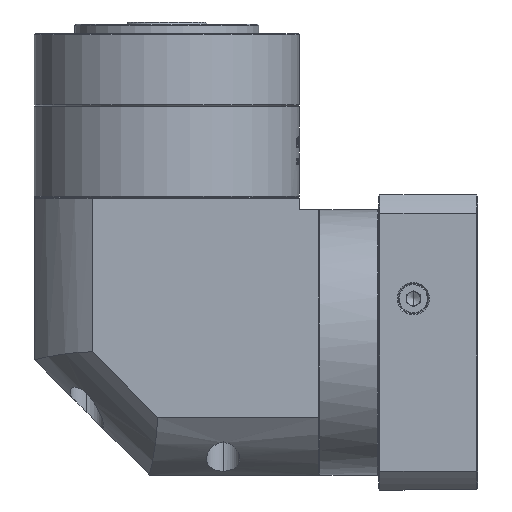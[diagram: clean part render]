
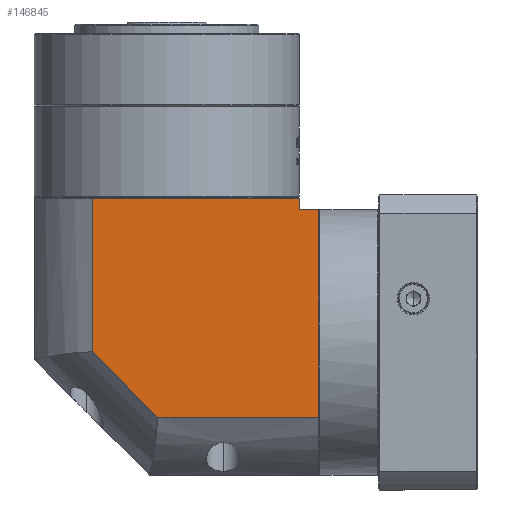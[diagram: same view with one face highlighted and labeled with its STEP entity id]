
A CAD part, left-side view. The second image highlights one B-rep face of the part: STEP entity #146845.
In plain terms, the highlighted planar face has unit normal (-1, 0, 0).
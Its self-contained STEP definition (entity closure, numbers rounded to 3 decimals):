
#3252 = DIRECTION ( 'NONE',  ( 0., -1., 0. ) ) ;
#4395 = VERTEX_POINT ( 'NONE', #9612 ) ;
#4476 = DIRECTION ( 'NONE',  ( 0., 1., 0. ) ) ;
#4751 = VERTEX_POINT ( 'NONE', #115779 ) ;
#9507 = VECTOR ( 'NONE', #124488, 1000. ) ;
#9612 = CARTESIAN_POINT ( 'NONE',  ( -292.94, -87.873, -29.011 ) ) ;
#12212 = ORIENTED_EDGE ( 'NONE', *, *, #113280, .F. ) ;
#12752 = VERTEX_POINT ( 'NONE', #29045 ) ;
#18236 = LINE ( 'NONE', #66241, #137091 ) ;
#19903 = CARTESIAN_POINT ( 'NONE',  ( -292.94, -87.873, 72.389 ) ) ;
#20639 = VECTOR ( 'NONE', #3252, 1000. ) ;
#25868 = LINE ( 'NONE', #19903, #166190 ) ;
#27801 = VERTEX_POINT ( 'NONE', #62877 ) ;
#29045 = CARTESIAN_POINT ( 'NONE',  ( -292.94, 10.427, 65.889 ) ) ;
#33429 = LINE ( 'NONE', #137398, #20639 ) ;
#33605 = DIRECTION ( 'NONE',  ( 0., 0., -1. ) ) ;
#41390 = VERTEX_POINT ( 'NONE', #41907 ) ;
#41907 = CARTESIAN_POINT ( 'NONE',  ( -292.94, -79.473, 65.889 ) ) ;
#52369 = CARTESIAN_POINT ( 'NONE',  ( -292.94, -17.911, -29.011 ) ) ;
#55957 = CARTESIAN_POINT ( 'NONE',  ( -292.94, -79.473, 60.889 ) ) ;
#60788 = ORIENTED_EDGE ( 'NONE', *, *, #130964, .F. ) ;
#60972 = CARTESIAN_POINT ( 'NONE',  ( -292.94, -79.473, 60.889 ) ) ;
#62694 = CARTESIAN_POINT ( 'NONE',  ( -292.94, -87.873, 60.889 ) ) ;
#62857 = ORIENTED_EDGE ( 'NONE', *, *, #64717, .T. ) ;
#62877 = CARTESIAN_POINT ( 'NONE',  ( -292.94, 10.427, -0.673 ) ) ;
#63772 = EDGE_LOOP ( 'NONE', ( #12212, #130496, #72927, #174046, #150519, #62857, #60788 ) ) ;
#64717 = EDGE_CURVE ( 'NONE', #98660, #41390, #175333, .T. ) ;
#65039 = LINE ( 'NONE', #52369, #162836 ) ;
#65671 = DIRECTION ( 'NONE',  ( 0., 0., 1. ) ) ;
#66241 = CARTESIAN_POINT ( 'NONE',  ( -292.94, 10.427, 72.389 ) ) ;
#72018 = EDGE_CURVE ( 'NONE', #150065, #98660, #125056, .T. ) ;
#72662 = EDGE_CURVE ( 'NONE', #4395, #4751, #148058, .T. ) ;
#72927 = ORIENTED_EDGE ( 'NONE', *, *, #72662, .F. ) ;
#80330 = VECTOR ( 'NONE', #4476, 1000. ) ;
#85803 = CARTESIAN_POINT ( 'NONE',  ( -292.94, 35.527, -29.011 ) ) ;
#85820 = CARTESIAN_POINT ( 'NONE',  ( -292.94, 35.527, 72.389 ) ) ;
#86492 = CARTESIAN_POINT ( 'NONE',  ( -292.94, -79.473, -54.111 ) ) ;
#98660 = VERTEX_POINT ( 'NONE', #60972 ) ;
#101030 = EDGE_CURVE ( 'NONE', #150065, #4395, #25868, .T. ) ;
#104498 = EDGE_CURVE ( 'NONE', #4751, #27801, #65039, .T. ) ;
#104619 = DIRECTION ( 'NONE',  ( 0., 0.707, 0.707 ) ) ;
#111338 = DIRECTION ( 'NONE',  ( 1., 0., 0. ) ) ;
#113280 = EDGE_CURVE ( 'NONE', #27801, #12752, #18236, .T. ) ;
#115779 = CARTESIAN_POINT ( 'NONE',  ( -292.94, -17.911, -29.011 ) ) ;
#124488 = DIRECTION ( 'NONE',  ( 0., 0., 1. ) ) ;
#125056 = LINE ( 'NONE', #55957, #146336 ) ;
#125484 = FACE_OUTER_BOUND ( 'NONE', #63772, .T. ) ;
#128216 = AXIS2_PLACEMENT_3D ( 'NONE', #85820, #111338, #165458 ) ;
#130496 = ORIENTED_EDGE ( 'NONE', *, *, #104498, .F. ) ;
#130964 = EDGE_CURVE ( 'NONE', #12752, #41390, #33429, .T. ) ;
#137091 = VECTOR ( 'NONE', #65671, 1000. ) ;
#137398 = CARTESIAN_POINT ( 'NONE',  ( -292.94, 35.527, 65.889 ) ) ;
#146336 = VECTOR ( 'NONE', #150966, 1000. ) ;
#146845 = ADVANCED_FACE ( 'NONE', ( #125484 ), #167801, .F. ) ;
#148058 = LINE ( 'NONE', #85803, #80330 ) ;
#150065 = VERTEX_POINT ( 'NONE', #62694 ) ;
#150519 = ORIENTED_EDGE ( 'NONE', *, *, #72018, .T. ) ;
#150966 = DIRECTION ( 'NONE',  ( 0., 1., 0. ) ) ;
#162836 = VECTOR ( 'NONE', #104619, 1000. ) ;
#165458 = DIRECTION ( 'NONE',  ( 0., 1., 0. ) ) ;
#166190 = VECTOR ( 'NONE', #33605, 1000. ) ;
#167801 = PLANE ( 'NONE',  #128216 ) ;
#174046 = ORIENTED_EDGE ( 'NONE', *, *, #101030, .F. ) ;
#175333 = LINE ( 'NONE', #86492, #9507 ) ;
